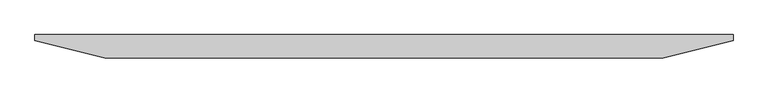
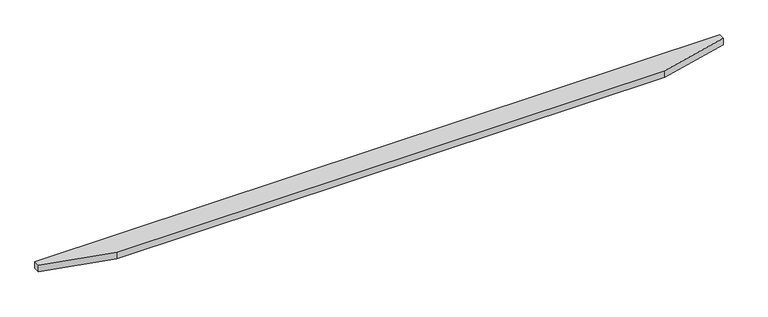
"""IFC4 building model written with IfcOpenShell, lengths in millimetres: proxy geometry, CAMBRIDGE^TABLE 4_54144 2 PC-KEEL."""

from ifc_helpers import new_model, si_unit, origin, origin_with_axes, place, context, project, spatial, polyline, outline, extrude, source, transform, mapped, element, save


def generic_models_7dbeee87(model_context):
    return source(origin(), model_context, "Body", "SweptSolid", [
        extrude(outline(polyline([(304.8, 0.0), (0.0, 76.2), (0.0, 101.6), (3048.0, 101.6), (3048.0, 76.2), (2743.2, 0.0), (304.8, 0.0)])), origin_with_axes(), (0.0, 0.0, 1.0), 31.75),
    ])


if __name__ == "__main__":
    model = new_model("IFC4")
    model_context = context("Model", 3, world=origin())
    ifc_project = project(units=[si_unit("LENGTHUNIT", "METRE", prefix="MILLI")], contexts=[model_context])
    site = spatial("IfcSite", under=ifc_project)
    building = spatial("IfcBuilding", under=site)
    placement = place(None, origin())
    generic_models_shape = generic_models_7dbeee87(model_context)
    element("IfcBuildingElementProxy", 1, Name="CAMBRIDGE^TABLE 4_54144 2 PC-KEEL", ObjectType="CAMBRIDGE^TABLE 4_54144 2 PC-KEEL", at=placement, inside=building, context=model_context, shape_type="MappedRepresentation", body=[
        mapped(generic_models_shape, transform((0.0, 0.0, 0.0), x_axis=(1.0, 0.0, 0.0), y_axis=(0.0, 1.0, 0.0), z_axis=(0.0, 0.0, 1.0))),
    ])
    save(model, "model.ifc")
